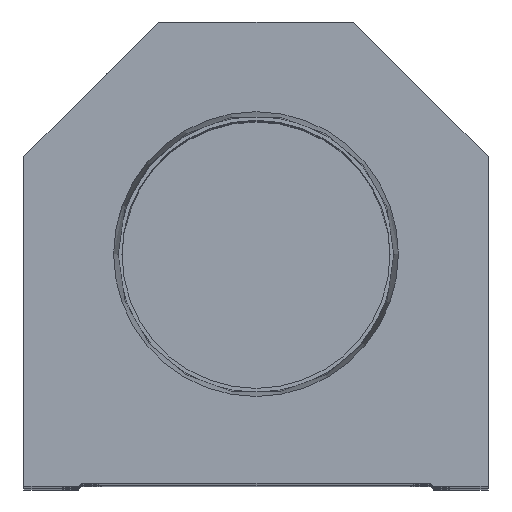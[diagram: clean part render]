
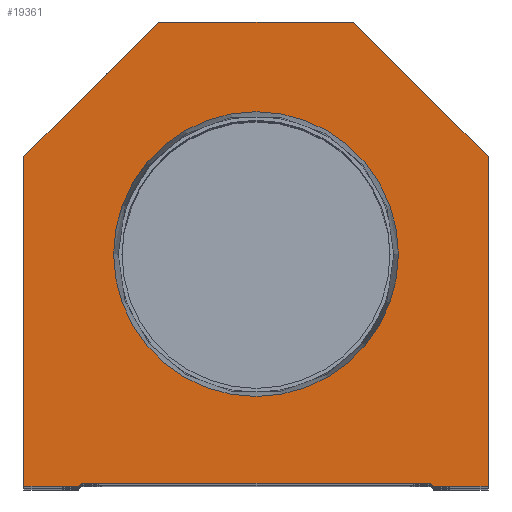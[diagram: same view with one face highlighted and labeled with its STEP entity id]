
A CAD part, top view. The second image highlights one B-rep face of the part: STEP entity #19361.
In plain terms, the highlighted planar face has unit normal (0, 0, 1).
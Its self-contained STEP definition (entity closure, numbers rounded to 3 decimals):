
#295 = ORIENTED_EDGE ( 'NONE', *, *, #16868, .T. ) ;
#458 = CARTESIAN_POINT ( 'NONE',  ( -23.374, 38.1, 0. ) ) ;
#516 = CARTESIAN_POINT ( 'NONE',  ( 38.1, 54.1, 0. ) ) ;
#605 = VECTOR ( 'NONE', #21734, 1000. ) ;
#685 = PLANE ( 'NONE',  #5626 ) ;
#702 = CARTESIAN_POINT ( 'NONE',  ( -28.6, 0.5, 0. ) ) ;
#795 = ORIENTED_EDGE ( 'NONE', *, *, #9026, .F. ) ;
#911 = ORIENTED_EDGE ( 'NONE', *, *, #12205, .T. ) ;
#1258 = VERTEX_POINT ( 'NONE', #12666 ) ;
#1325 = DIRECTION ( 'NONE',  ( -1., 0., 0. ) ) ;
#1547 = CARTESIAN_POINT ( 'NONE',  ( 16., 76.2, 0. ) ) ;
#1758 = VERTEX_POINT ( 'NONE', #15919 ) ;
#1790 = LINE ( 'NONE', #24137, #5222 ) ;
#1934 = DIRECTION ( 'NONE',  ( 0., 0., 1. ) ) ;
#2032 = DIRECTION ( 'NONE',  ( -0.707, 0.707, 0. ) ) ;
#2793 = DIRECTION ( 'NONE',  ( 0., 0., 1. ) ) ;
#3499 = VERTEX_POINT ( 'NONE', #702 ) ;
#3707 = EDGE_CURVE ( 'NONE', #14227, #1258, #10682, .T. ) ;
#4046 = ORIENTED_EDGE ( 'NONE', *, *, #3707, .T. ) ;
#4269 = CARTESIAN_POINT ( 'NONE',  ( 38.1, 0., 0. ) ) ;
#4325 = AXIS2_PLACEMENT_3D ( 'NONE', #12728, #10167, #7051 ) ;
#4482 = ORIENTED_EDGE ( 'NONE', *, *, #18335, .T. ) ;
#4722 = VECTOR ( 'NONE', #4819, 1000. ) ;
#4819 = DIRECTION ( 'NONE',  ( 1., 0., 0. ) ) ;
#5222 = VECTOR ( 'NONE', #2032, 1000. ) ;
#5385 = EDGE_LOOP ( 'NONE', ( #795, #14990 ) ) ;
#5491 = DIRECTION ( 'NONE',  ( 1., 0., 0. ) ) ;
#5626 = AXIS2_PLACEMENT_3D ( 'NONE', #8192, #2793, #6231 ) ;
#6190 = EDGE_CURVE ( 'NONE', #15851, #15453, #9809, .T. ) ;
#6231 = DIRECTION ( 'NONE',  ( 1., 0., 0. ) ) ;
#6304 = EDGE_LOOP ( 'NONE', ( #4482, #911, #21992, #11468, #15912, #9677, #22674, #4046, #295, #21636 ) ) ;
#6380 = CARTESIAN_POINT ( 'NONE',  ( -28.6, 0., 0. ) ) ;
#6409 = EDGE_CURVE ( 'NONE', #12787, #6428, #14180, .T. ) ;
#6428 = VERTEX_POINT ( 'NONE', #9353 ) ;
#6913 = EDGE_CURVE ( 'NONE', #8668, #1758, #16774, .T. ) ;
#7040 = CARTESIAN_POINT ( 'NONE',  ( -29.1, 0., 0. ) ) ;
#7051 = DIRECTION ( 'NONE',  ( 1., 0., 0. ) ) ;
#7983 = LINE ( 'NONE', #6380, #12300 ) ;
#8083 = AXIS2_PLACEMENT_3D ( 'NONE', #9323, #1934, #10809 ) ;
#8192 = CARTESIAN_POINT ( 'NONE',  ( 0., 0., 0. ) ) ;
#8375 = LINE ( 'NONE', #14300, #605 ) ;
#8387 = LINE ( 'NONE', #15876, #15305 ) ;
#8668 = VERTEX_POINT ( 'NONE', #10359 ) ;
#9026 = EDGE_CURVE ( 'NONE', #15453, #15851, #9282, .T. ) ;
#9282 = CIRCLE ( 'NONE', #8083, 23.374 ) ;
#9323 = CARTESIAN_POINT ( 'NONE',  ( 0., 38.1, 0. ) ) ;
#9353 = CARTESIAN_POINT ( 'NONE',  ( 38.1, 0., 0. ) ) ;
#9677 = ORIENTED_EDGE ( 'NONE', *, *, #17630, .T. ) ;
#9806 = EDGE_CURVE ( 'NONE', #19163, #12787, #8375, .T. ) ;
#9809 = CIRCLE ( 'NONE', #4325, 23.374 ) ;
#10079 = DIRECTION ( 'NONE',  ( 1., 0., 0. ) ) ;
#10167 = DIRECTION ( 'NONE',  ( 0., 0., 1. ) ) ;
#10359 = CARTESIAN_POINT ( 'NONE',  ( -38.1, 54.1, 0. ) ) ;
#10682 = LINE ( 'NONE', #18159, #21586 ) ;
#10809 = DIRECTION ( 'NONE',  ( 1., 0., 0. ) ) ;
#11468 = ORIENTED_EDGE ( 'NONE', *, *, #9806, .T. ) ;
#11496 = EDGE_CURVE ( 'NONE', #3499, #19163, #18375, .T. ) ;
#11876 = VECTOR ( 'NONE', #15564, 1000. ) ;
#12205 = EDGE_CURVE ( 'NONE', #16230, #3499, #8387, .T. ) ;
#12300 = VECTOR ( 'NONE', #10079, 1000. ) ;
#12557 = VECTOR ( 'NONE', #5491, 1000. ) ;
#12666 = CARTESIAN_POINT ( 'NONE',  ( -16., 76.2, 0. ) ) ;
#12728 = CARTESIAN_POINT ( 'NONE',  ( 0., 38.1, 0. ) ) ;
#12787 = VERTEX_POINT ( 'NONE', #14860 ) ;
#12941 = CARTESIAN_POINT ( 'NONE',  ( 23.374, 38.1, 0. ) ) ;
#13001 = CARTESIAN_POINT ( 'NONE',  ( -28.6, 0.5, 0. ) ) ;
#14180 = LINE ( 'NONE', #21624, #4722 ) ;
#14227 = VERTEX_POINT ( 'NONE', #1547 ) ;
#14300 = CARTESIAN_POINT ( 'NONE',  ( 14.55, 14.55, 0. ) ) ;
#14475 = CARTESIAN_POINT ( 'NONE',  ( -38.1, 54.1, 0. ) ) ;
#14617 = VERTEX_POINT ( 'NONE', #516 ) ;
#14860 = CARTESIAN_POINT ( 'NONE',  ( 29.1, 0., 0. ) ) ;
#14990 = ORIENTED_EDGE ( 'NONE', *, *, #6190, .F. ) ;
#15305 = VECTOR ( 'NONE', #18173, 1000. ) ;
#15453 = VERTEX_POINT ( 'NONE', #12941 ) ;
#15564 = DIRECTION ( 'NONE',  ( 0., 1., 0. ) ) ;
#15851 = VERTEX_POINT ( 'NONE', #458 ) ;
#15876 = CARTESIAN_POINT ( 'NONE',  ( -14.55, 14.55, 0. ) ) ;
#15912 = ORIENTED_EDGE ( 'NONE', *, *, #6409, .T. ) ;
#15919 = CARTESIAN_POINT ( 'NONE',  ( -38.1, 0., 0. ) ) ;
#16046 = VECTOR ( 'NONE', #20457, 1000. ) ;
#16230 = VERTEX_POINT ( 'NONE', #7040 ) ;
#16774 = LINE ( 'NONE', #23904, #16046 ) ;
#16868 = EDGE_CURVE ( 'NONE', #1258, #8668, #23393, .T. ) ;
#17630 = EDGE_CURVE ( 'NONE', #6428, #14617, #19115, .T. ) ;
#17764 = FACE_OUTER_BOUND ( 'NONE', #6304, .T. ) ;
#17870 = DIRECTION ( 'NONE',  ( -0.707, -0.707, 0. ) ) ;
#18020 = EDGE_CURVE ( 'NONE', #14617, #14227, #1790, .T. ) ;
#18042 = CARTESIAN_POINT ( 'NONE',  ( 28.6, 0.5, 0. ) ) ;
#18159 = CARTESIAN_POINT ( 'NONE',  ( 16., 76.2, 0. ) ) ;
#18173 = DIRECTION ( 'NONE',  ( 0.707, 0.707, 0. ) ) ;
#18335 = EDGE_CURVE ( 'NONE', #1758, #16230, #7983, .T. ) ;
#18375 = LINE ( 'NONE', #13001, #12557 ) ;
#18884 = VECTOR ( 'NONE', #17870, 1000. ) ;
#19115 = LINE ( 'NONE', #4269, #11876 ) ;
#19163 = VERTEX_POINT ( 'NONE', #18042 ) ;
#19361 = ADVANCED_FACE ( 'NONE', ( #19483, #17764 ), #685, .T. ) ;
#19483 = FACE_BOUND ( 'NONE', #5385, .T. ) ;
#20457 = DIRECTION ( 'NONE',  ( 0., -1., 0. ) ) ;
#21586 = VECTOR ( 'NONE', #1325, 1000. ) ;
#21624 = CARTESIAN_POINT ( 'NONE',  ( 28.6, 0., 0. ) ) ;
#21636 = ORIENTED_EDGE ( 'NONE', *, *, #6913, .T. ) ;
#21734 = DIRECTION ( 'NONE',  ( 0.707, -0.707, 0. ) ) ;
#21992 = ORIENTED_EDGE ( 'NONE', *, *, #11496, .T. ) ;
#22674 = ORIENTED_EDGE ( 'NONE', *, *, #18020, .T. ) ;
#23393 = LINE ( 'NONE', #14475, #18884 ) ;
#23904 = CARTESIAN_POINT ( 'NONE',  ( -38.1, 0., 0. ) ) ;
#24137 = CARTESIAN_POINT ( 'NONE',  ( 38.1, 54.1, 0. ) ) ;
